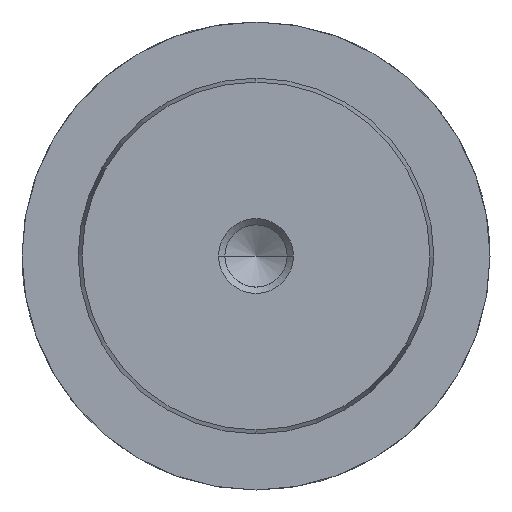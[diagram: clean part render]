
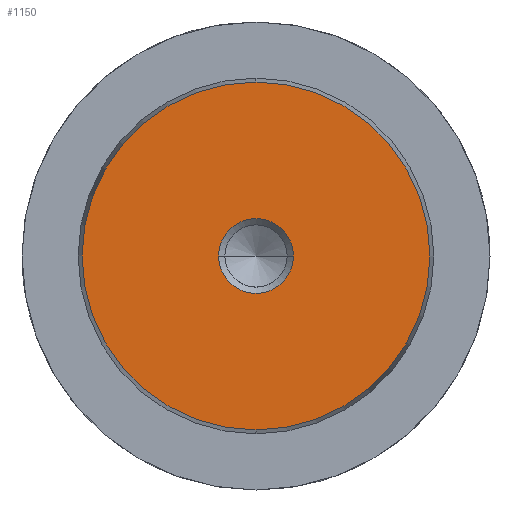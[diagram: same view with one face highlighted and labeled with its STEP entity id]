
A CAD part, left-side view. The second image highlights one B-rep face of the part: STEP entity #1150.
In plain terms, the highlighted planar face has unit normal (-1, 0, 0).
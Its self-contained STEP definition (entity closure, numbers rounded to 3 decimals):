
#1064=CARTESIAN_POINT('Vertex',(0.,0.,-18.578)) ;
#1067=CARTESIAN_POINT('Axis2P3D Location',(0.,0.,0.)) ;
#1071=CARTESIAN_POINT('Vertex',(0.,18.578,0.)) ;
#1074=CARTESIAN_POINT('Axis2P3D Location',(0.,0.,0.)) ;
#1078=CARTESIAN_POINT('Vertex',(0.,0.,18.578)) ;
#1100=CARTESIAN_POINT('Axis2P3D Location',(0.,0.,0.)) ;
#1104=CARTESIAN_POINT('Vertex',(0.,-18.578,0.)) ;
#1107=CARTESIAN_POINT('Axis2P3D Location',(0.,0.,0.)) ;
#1121=CARTESIAN_POINT('Axis2P3D Location',(0.,0.,0.)) ;
#1132=CARTESIAN_POINT('Axis2P3D Location',(0.,0.,0.)) ;
#1136=CARTESIAN_POINT('Vertex',(0.,4.,0.)) ;
#1138=CARTESIAN_POINT('Vertex',(0.,-4.,0.)) ;
#1141=CARTESIAN_POINT('Axis2P3D Location',(0.,0.,0.)) ;
#1068=DIRECTION('Axis2P3D Direction',(1.,0.,-0.)) ;
#1075=DIRECTION('Axis2P3D Direction',(1.,0.,-0.)) ;
#1101=DIRECTION('Axis2P3D Direction',(1.,0.,-0.)) ;
#1108=DIRECTION('Axis2P3D Direction',(1.,0.,-0.)) ;
#1122=DIRECTION('Axis2P3D Direction',(1.,0.,-0.)) ;
#1123=DIRECTION('Axis2P3D XDirection',(-0.,0.,-1.)) ;
#1133=DIRECTION('Axis2P3D Direction',(1.,0.,-0.)) ;
#1142=DIRECTION('Axis2P3D Direction',(1.,0.,-0.)) ;
#1069=AXIS2_PLACEMENT_3D('Circle Axis2P3D',#1067,#1068,$) ;
#1076=AXIS2_PLACEMENT_3D('Circle Axis2P3D',#1074,#1075,$) ;
#1102=AXIS2_PLACEMENT_3D('Circle Axis2P3D',#1100,#1101,$) ;
#1109=AXIS2_PLACEMENT_3D('Circle Axis2P3D',#1107,#1108,$) ;
#1124=AXIS2_PLACEMENT_3D('Plane Axis2P3D',#1121,#1122,#1123) ;
#1134=AXIS2_PLACEMENT_3D('Circle Axis2P3D',#1132,#1133,$) ;
#1143=AXIS2_PLACEMENT_3D('Circle Axis2P3D',#1141,#1142,$) ;
#1127=ORIENTED_EDGE('',*,*,#1073,.F.) ;
#1128=ORIENTED_EDGE('',*,*,#1111,.F.) ;
#1129=ORIENTED_EDGE('',*,*,#1106,.F.) ;
#1130=ORIENTED_EDGE('',*,*,#1080,.F.) ;
#1147=ORIENTED_EDGE('',*,*,#1140,.T.) ;
#1148=ORIENTED_EDGE('',*,*,#1145,.T.) ;
#1149=FACE_BOUND('',#1146,.T.) ;
#1150=ADVANCED_FACE('718-38x200',(#1131,#1149),#1125,.F.) ;
#1070=CIRCLE('generated circle',#1069,18.578) ;
#1077=CIRCLE('generated circle',#1076,18.578) ;
#1103=CIRCLE('generated circle',#1102,18.578) ;
#1110=CIRCLE('generated circle',#1109,18.578) ;
#1135=CIRCLE('generated circle',#1134,4.) ;
#1144=CIRCLE('generated circle',#1143,4.) ;
#1073=EDGE_CURVE('',#1065,#1072,#1070,.T.) ;
#1080=EDGE_CURVE('',#1072,#1079,#1077,.T.) ;
#1106=EDGE_CURVE('',#1079,#1105,#1103,.T.) ;
#1111=EDGE_CURVE('',#1105,#1065,#1110,.T.) ;
#1140=EDGE_CURVE('',#1137,#1139,#1135,.T.) ;
#1145=EDGE_CURVE('',#1139,#1137,#1144,.T.) ;
#1126=EDGE_LOOP('',(#1127,#1128,#1129,#1130)) ;
#1146=EDGE_LOOP('',(#1147,#1148)) ;
#1131=FACE_OUTER_BOUND('',#1126,.T.) ;
#1125=PLANE('Plane',#1124) ;
#1065=VERTEX_POINT('',#1064) ;
#1072=VERTEX_POINT('',#1071) ;
#1079=VERTEX_POINT('',#1078) ;
#1105=VERTEX_POINT('',#1104) ;
#1137=VERTEX_POINT('',#1136) ;
#1139=VERTEX_POINT('',#1138) ;
